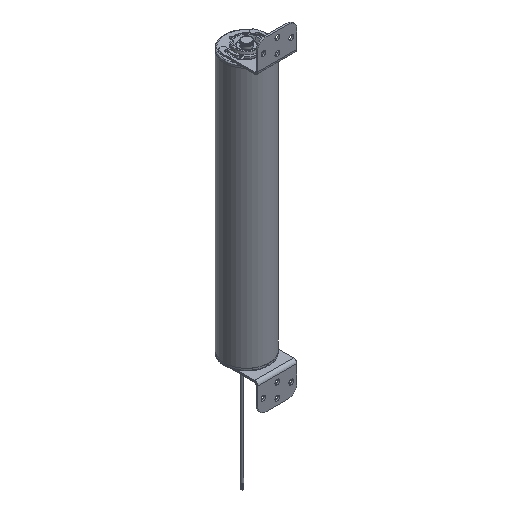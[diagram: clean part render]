
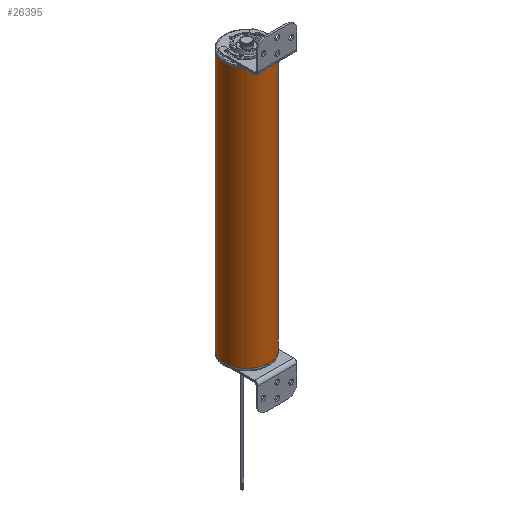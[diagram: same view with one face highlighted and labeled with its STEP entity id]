
A CAD part, isometric view. The second image highlights one B-rep face of the part: STEP entity #26395.
In plain terms, the highlighted cylindrical face has radius 40 mm (diameter 80 mm), a partial arc.
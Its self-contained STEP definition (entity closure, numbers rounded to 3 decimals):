
#34 = AXIS2_PLACEMENT_3D ( 'NONE', #1199, #32521, #29474 ) ;
#163 = DIRECTION ( 'NONE',  ( 0., 0., -1. ) ) ;
#262 = EDGE_CURVE ( 'NONE', #28294, #506, #12165, .T. ) ;
#506 = VERTEX_POINT ( 'NONE', #32492 ) ;
#645 = AXIS2_PLACEMENT_3D ( 'NONE', #8702, #37367, #9491 ) ;
#1199 = CARTESIAN_POINT ( 'NONE',  ( 0., 0., 465.7 ) ) ;
#1992 = CIRCLE ( 'NONE', #17581, 40. ) ;
#6370 = EDGE_CURVE ( 'NONE', #29811, #506, #1992, .T. ) ;
#6661 = CARTESIAN_POINT ( 'NONE',  ( -40., 0., 465.7 ) ) ;
#7419 = ORIENTED_EDGE ( 'NONE', *, *, #6370, .T. ) ;
#8702 = CARTESIAN_POINT ( 'NONE',  ( 0., 0., 465.7 ) ) ;
#9491 = DIRECTION ( 'NONE',  ( -1., 0., 0. ) ) ;
#11138 = CARTESIAN_POINT ( 'NONE',  ( 0., 0., 0. ) ) ;
#11416 = EDGE_CURVE ( 'NONE', #23486, #29811, #16049, .T. ) ;
#12165 = LINE ( 'NONE', #6661, #25011 ) ;
#13602 = DIRECTION ( 'NONE',  ( 0., 0., -1. ) ) ;
#16049 = LINE ( 'NONE', #31921, #17288 ) ;
#17288 = VECTOR ( 'NONE', #13602, 1000. ) ;
#17581 = AXIS2_PLACEMENT_3D ( 'NONE', #11138, #32887, #30243 ) ;
#19184 = EDGE_CURVE ( 'NONE', #28294, #23486, #22744, .T. ) ;
#19525 = CYLINDRICAL_SURFACE ( 'NONE', #34, 40. ) ;
#20119 = FACE_OUTER_BOUND ( 'NONE', #26756, .T. ) ;
#22744 = CIRCLE ( 'NONE', #645, 40. ) ;
#23486 = VERTEX_POINT ( 'NONE', #33795 ) ;
#25011 = VECTOR ( 'NONE', #163, 1000. ) ;
#26395 = ADVANCED_FACE ( 'NONE', ( #20119 ), #19525, .T. ) ;
#26756 = EDGE_LOOP ( 'NONE', ( #33374, #29763, #7419, #32303 ) ) ;
#28294 = VERTEX_POINT ( 'NONE', #34800 ) ;
#29474 = DIRECTION ( 'NONE',  ( -1., 0., 0. ) ) ;
#29763 = ORIENTED_EDGE ( 'NONE', *, *, #11416, .T. ) ;
#29811 = VERTEX_POINT ( 'NONE', #38219 ) ;
#30243 = DIRECTION ( 'NONE',  ( -1., 0., 0. ) ) ;
#31921 = CARTESIAN_POINT ( 'NONE',  ( 40., 0., 465.7 ) ) ;
#32303 = ORIENTED_EDGE ( 'NONE', *, *, #262, .F. ) ;
#32492 = CARTESIAN_POINT ( 'NONE',  ( -40., 0., 0. ) ) ;
#32521 = DIRECTION ( 'NONE',  ( 0., 0., -1. ) ) ;
#32887 = DIRECTION ( 'NONE',  ( 0., 0., 1. ) ) ;
#33374 = ORIENTED_EDGE ( 'NONE', *, *, #19184, .T. ) ;
#33795 = CARTESIAN_POINT ( 'NONE',  ( 40., 0., 465.7 ) ) ;
#34800 = CARTESIAN_POINT ( 'NONE',  ( -40., 0., 465.7 ) ) ;
#37367 = DIRECTION ( 'NONE',  ( 0., 0., -1. ) ) ;
#38219 = CARTESIAN_POINT ( 'NONE',  ( 40., 0., 0. ) ) ;
